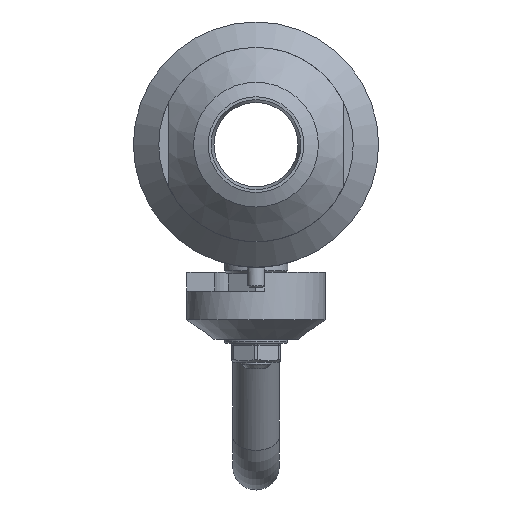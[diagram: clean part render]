
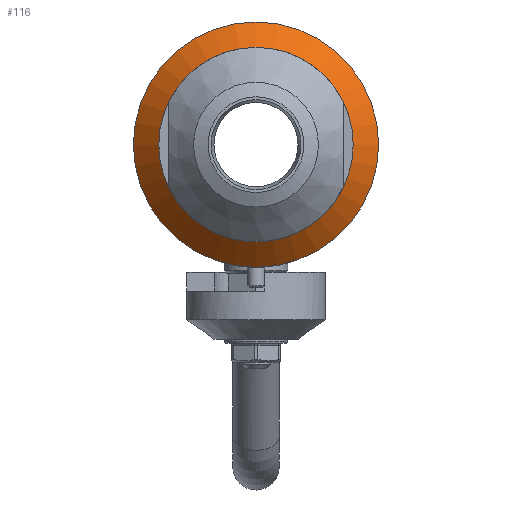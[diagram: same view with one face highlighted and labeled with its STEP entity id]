
A CAD part, left-side view. The second image highlights one B-rep face of the part: STEP entity #116.
In plain terms, the highlighted conical face has half-angle 45 degrees and reference radius 37.875 mm.
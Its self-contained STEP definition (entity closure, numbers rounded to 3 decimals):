
#116=ADVANCED_FACE('',(#1041),#1043,.T.);
#1041=FACE_OUTER_BOUND('',#1042,.T.);
#1042=EDGE_LOOP('',(#1981,#1982,#1983,#1984,#1985));
#1043=CONICAL_SURFACE('',#1044,37.875,0.785);
#1044=AXIS2_PLACEMENT_3D('',#1045,#1046,#1047);
#1045=CARTESIAN_POINT('',(-34.625,0.,0.));
#1046=DIRECTION('',(1.,0.,0.));
#1047=DIRECTION('',(0.,1.,0.));
#1981=ORIENTED_EDGE('',*,*,#3079,.F.);
#1982=ORIENTED_EDGE('',*,*,#3080,.F.);
#1983=ORIENTED_EDGE('',*,*,#3081,.T.);
#1984=ORIENTED_EDGE('',*,*,#3067,.T.);
#1985=ORIENTED_EDGE('',*,*,#3081,.F.);
#3067=EDGE_CURVE('',#3337,#3337,#3339,.T.);
#3079=EDGE_CURVE('',#3355,#3356,#3357,.T.);
#3080=EDGE_CURVE('',#3356,#3355,#3358,.T.);
#3081=EDGE_CURVE('',#3356,#3337,#3359,.T.);
#3337=VERTEX_POINT('',#4264);
#3339=CIRCLE('',#4268,42.25);
#3355=VERTEX_POINT('',#4407);
#3356=VERTEX_POINT('',#4408);
#3357=CIRCLE('',#4409,33.5);
#3358=CIRCLE('',#4413,33.5);
#3359=LINE('',#4417,#4418);
#4264=CARTESIAN_POINT('',(-30.25,-42.25,0.));
#4268=AXIS2_PLACEMENT_3D('',#4269,#4270,#4271);
#4269=CARTESIAN_POINT('',(-30.25,0.,0.));
#4270=DIRECTION('',(-1.,0.,0.));
#4271=DIRECTION('',(0.,-1.,0.));
#4407=CARTESIAN_POINT('',(-39.,0.,33.5));
#4408=CARTESIAN_POINT('',(-39.,-33.5,0.));
#4409=AXIS2_PLACEMENT_3D('',#4410,#4411,#4412);
#4410=CARTESIAN_POINT('',(-39.,0.,0.));
#4411=DIRECTION('',(-1.,0.,0.));
#4412=DIRECTION('',(0.,0.,1.));
#4413=AXIS2_PLACEMENT_3D('',#4414,#4415,#4416);
#4414=CARTESIAN_POINT('',(-39.,0.,0.));
#4415=DIRECTION('',(-1.,0.,0.));
#4416=DIRECTION('',(0.,-1.,0.));
#4417=CARTESIAN_POINT('',(-39.,-33.5,0.));
#4418=VECTOR('',#4419,1.);
#4419=DIRECTION('',(0.707,-0.707,0.));
